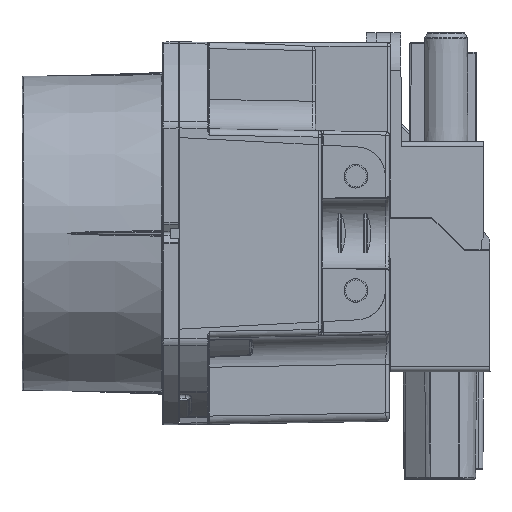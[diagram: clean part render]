
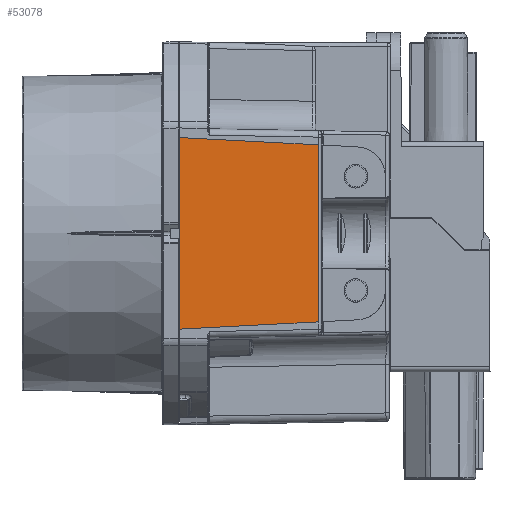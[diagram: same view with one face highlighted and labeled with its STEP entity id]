
A CAD part, left-side view. The second image highlights one B-rep face of the part: STEP entity #53078.
In plain terms, the highlighted planar face has unit normal (-1, -0.018, 0).
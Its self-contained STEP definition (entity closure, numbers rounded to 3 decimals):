
#29972=CARTESIAN_POINT('',(-28.67,-5.564,-23.053));
#29973=VERTEX_POINT('',#29972);
#29980=CARTESIAN_POINT('',(-28.67,-5.564,6.952));
#29981=VERTEX_POINT('',#29980);
#29982=CARTESIAN_POINT('',(-28.67,-5.564,6.952));
#29983=DIRECTION('',(0.0,0.0,-1.0));
#29984=VECTOR('',#29983,30.006);
#29985=LINE('',#29982,#29984);
#29986=EDGE_CURVE('',#29981,#29973,#29985,.T.);
#32135=CARTESIAN_POINT('',(-28.291,-27.235,-21.918));
#32136=VERTEX_POINT('',#32135);
#32143=CARTESIAN_POINT('',(-28.67,-5.564,-23.053));
#32144=DIRECTION('',(0.017,-0.998,0.052));
#32145=VECTOR('',#32144,21.703);
#32146=LINE('',#32143,#32145);
#32147=EDGE_CURVE('',#29973,#32136,#32146,.T.);
#32184=CARTESIAN_POINT('',(-28.291,-27.235,5.817));
#32185=VERTEX_POINT('',#32184);
#32186=CARTESIAN_POINT('',(-28.291,-27.235,5.817));
#32187=DIRECTION('',(-0.017,0.998,0.052));
#32188=VECTOR('',#32187,21.703);
#32189=LINE('',#32186,#32188);
#32190=EDGE_CURVE('',#32185,#29981,#32189,.T.);
#40312=CARTESIAN_POINT('',(-28.291,-27.235,-21.918));
#40313=DIRECTION('',(0.0,0.0,1.0));
#40314=VECTOR('',#40313,27.734);
#40315=LINE('',#40312,#40314);
#40316=EDGE_CURVE('',#32136,#32185,#40315,.T.);
#53067=CARTESIAN_POINT('',(-28.67,-5.564,-25.087));
#53068=DIRECTION('',(-1.,-0.017,0.));
#53069=DIRECTION('',(0.0,0.0,1.0));
#53070=AXIS2_PLACEMENT_3D('',#53067,#53068,#53069);
#53071=PLANE('',#53070);
#53072=ORIENTED_EDGE('',*,*,#32147,.T.);
#53073=ORIENTED_EDGE('',*,*,#40316,.T.);
#53074=ORIENTED_EDGE('',*,*,#32190,.T.);
#53075=ORIENTED_EDGE('',*,*,#29986,.T.);
#53076=EDGE_LOOP('',(#53072,#53073,#53074,#53075));
#53077=FACE_OUTER_BOUND('',#53076,.T.);
#53078=ADVANCED_FACE('',(#53077),#53071,.T.);
